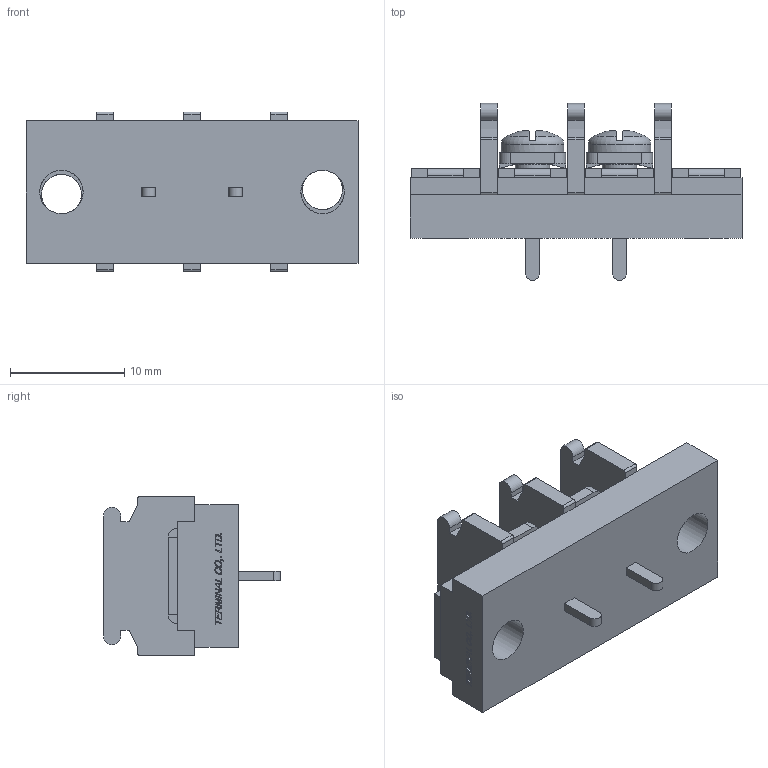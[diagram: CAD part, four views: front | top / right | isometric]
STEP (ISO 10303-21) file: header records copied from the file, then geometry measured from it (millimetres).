
FILE_DESCRIPTION(/* description */ ('Alibre Inc.'),/* implementation_level */ '2;1');
FILE_NAME(/* name */ 'export0',/* time_stamp */ '2015-10-23T19:16:18+09:00',/* author */ (''),/* organization */ (''),/* preprocessor_version */ 'ST-DEVELOPER v14',/* originating_system */ 'Alibre',/* authorisation */ '');
FILE_SCHEMA (('CONFIG_CONTROL_DESIGN'));
Length unit declared in the file: centimetre
Products named in the file (1): ID_1
Bounding box: 29.06 x 15.5 x 14 mm (x, y, z)
Volume: 2347 mm3; surface area: 2316.8 mm2
Topology: 1 solids, 1 shells, 664 faces, 1800 edges, 1188 vertices
Faces by surface type: plane 500, bspline 104, cylinder 44, cone 8, torus 4, sphere 4
Full cylindrical faces by diameter (mm): 3 x2, 3.5 x2, 3.8 x2, 5.5 x2
Entity records: 20053 total; most frequent: CARTESIAN_POINT 4629, ORIENTED_EDGE 3560, DIRECTION 2262, EDGE_CURVE 1780, VECTOR 1360, LINE 1360, VERTEX_POINT 1180, EDGE_LOOP 730
